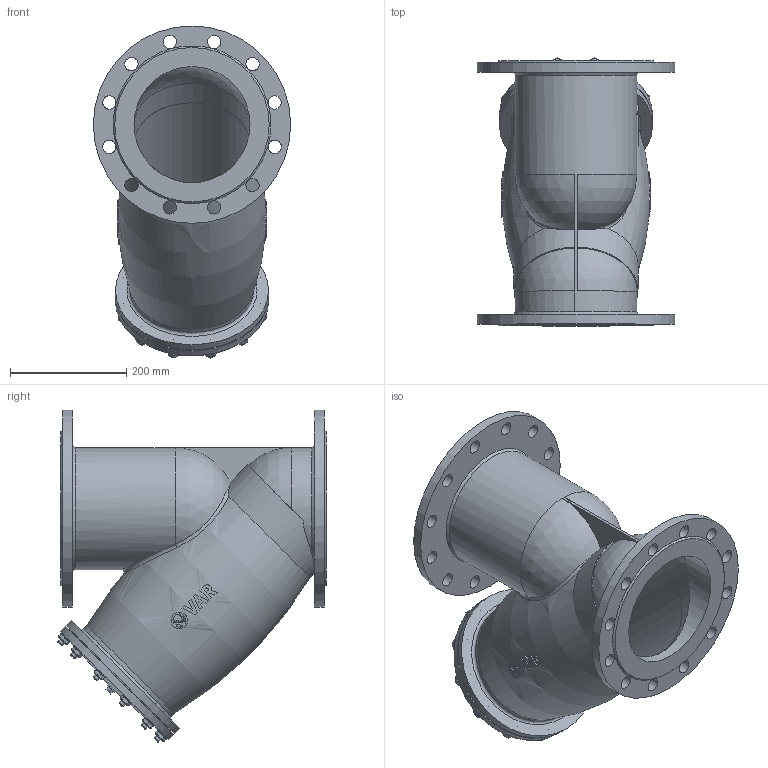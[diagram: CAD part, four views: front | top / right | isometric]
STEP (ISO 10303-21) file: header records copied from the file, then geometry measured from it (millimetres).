
FILE_DESCRIPTION(('STEP AP203'), '1');
FILE_NAME('VAR STRAINER ôèëüòð-ãðÿçåóëîâèòåëü', '', ('UNSPECIFIED'), ('UNSPECIFIED'), 'C3D Converter', 'C3D Toolkit', '');
FILE_SCHEMA(('CONFIG_CONTROL_DESIGN'));
Length unit declared in the file: millimetre
Assembly tree (41 placements, depth 2):
  (unnamed)
    (unnamed)
    (unnamed)
    (unnamed)  x12
    (unnamed)  x12
    (unnamed)  x12
    (unnamed)
    (unnamed)
    (unnamed)
Bounding box: 340 x 461.95 x 572 mm (x, y, z)
Volume: 6117027 mm3; surface area: 1874522.5 mm2
Topology: 42 solids, 42 shells, 666 faces, 1620 edges, 1050 vertices
Faces by surface type: plane 265, extrusion 150, cylinder 121, cone 88, torus 28, sphere 8, bspline 6
Full cylindrical faces by diameter (mm): 10 x36, 11 x12, 12 x14, 18 x13, 23 x24, 28.42 x1, 200 x6, 204 x3, 210 x1, 214 x1, 218 x1, 220 x2, 264 x2, 340 x2
Entity records: 29919 total; most frequent: CARTESIAN_POINT 16967, ORIENTED_EDGE 2038, DIRECTION 1595, EDGE_CURVE 1019, VERTEX_POINT 730, EDGE_LOOP 633, B_SPLINE_CURVE_WITH_KNOTS 610, AXIS2_PLACEMENT_3D 586
